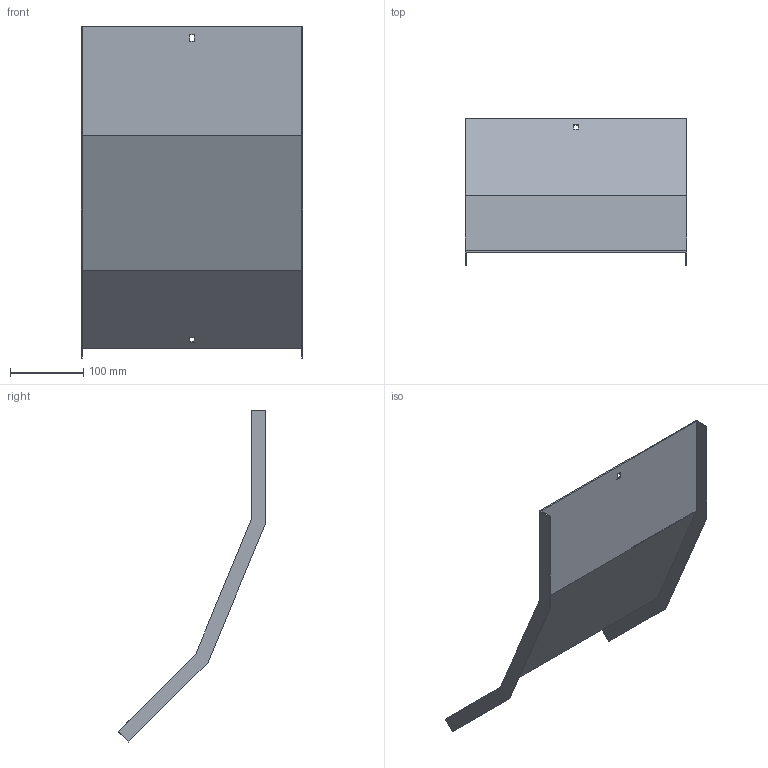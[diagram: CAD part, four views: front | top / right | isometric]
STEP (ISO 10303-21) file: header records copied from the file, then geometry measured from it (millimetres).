
FILE_DESCRIPTION (( 'STEP AP214' ), '1' );
FILE_NAME ('A2X31N5R300X.step', '2025-03-20T09:41:36', ( '' ), ( '' ), 'SwSTEP 2.0', 'SolidWorks 2023', '' );
FILE_SCHEMA (( 'AUTOMOTIVE_DESIGN' ));
Length unit declared in the file: millimetre
Products named in the file (1): A2X31N5R300X
Bounding box: 303 x 201.89 x 453.26 mm (x, y, z)
Volume: 254601.4 mm3; surface area: 342121.8 mm2
Topology: 1 solids, 1 shells, 26 faces, 72 edges, 48 vertices
Faces by surface type: plane 26
Entity records: 847 total; most frequent: CARTESIAN_POINT 147, ORIENTED_EDGE 144, DIRECTION 126, VECTOR 72, EDGE_CURVE 72, LINE 72, VERTEX_POINT 48, EDGE_LOOP 30
